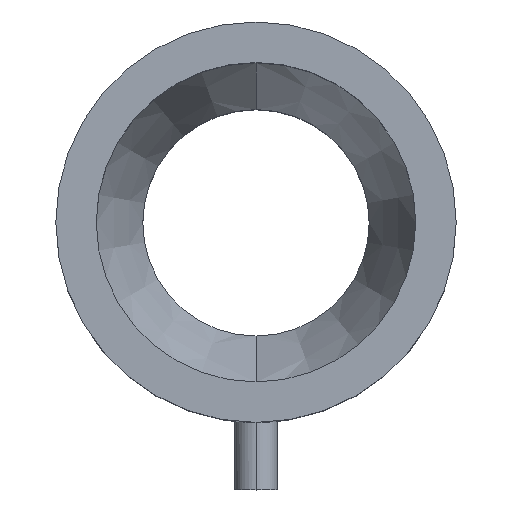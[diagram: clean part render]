
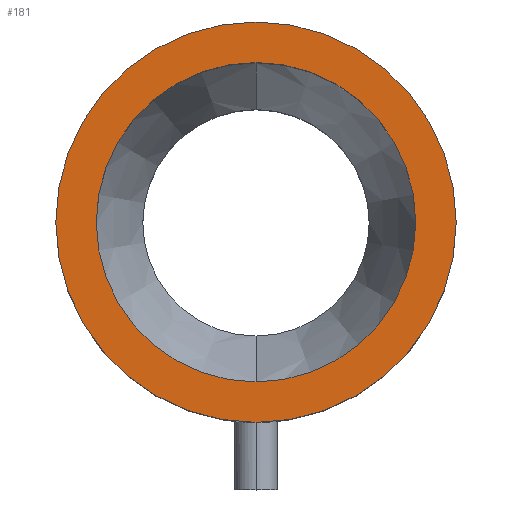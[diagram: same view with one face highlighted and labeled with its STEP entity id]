
A CAD part, top view. The second image highlights one B-rep face of the part: STEP entity #181.
In plain terms, the highlighted planar face has unit normal (0, 0, 1).
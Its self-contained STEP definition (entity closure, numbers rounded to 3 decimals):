
#9 = AXIS2_PLACEMENT_3D ( 'NONE', #724, #725, #726 ) ;
#11 = CIRCLE ( 'NONE', #9, 45. ) ;
#12 = AXIS2_PLACEMENT_3D ( 'NONE', #715, #716, #717 ) ;
#19 = AXIS2_PLACEMENT_3D ( 'NONE', #552, #559, #560 ) ;
#25 = CIRCLE ( 'NONE', #12, 56.4 ) ;
#79 = CIRCLE ( 'NONE', #86, 56.4 ) ;
#84 = AXIS2_PLACEMENT_3D ( 'NONE', #322, #323, #324 ) ;
#86 = AXIS2_PLACEMENT_3D ( 'NONE', #313, #314, #315 ) ;
#87 = CIRCLE ( 'NONE', #84, 45. ) ;
#142 = EDGE_CURVE ( 'NONE', #236, #208, #79, .T. ) ;
#145 = EDGE_CURVE ( 'NONE', #241, #206, #87, .T. ) ;
#181 = ADVANCED_FACE ( 'NONE', ( #556, #548 ), #557, .T. ) ;
#186 = EDGE_CURVE ( 'NONE', #208, #236, #25, .T. ) ;
#188 = EDGE_CURVE ( 'NONE', #206, #241, #11, .T. ) ;
#206 = VERTEX_POINT ( 'NONE', #718 ) ;
#208 = VERTEX_POINT ( 'NONE', #816 ) ;
#236 = VERTEX_POINT ( 'NONE', #842 ) ;
#241 = VERTEX_POINT ( 'NONE', #847 ) ;
#313 = CARTESIAN_POINT ( 'NONE',  ( 0., 0., 145.9 ) ) ;
#314 = DIRECTION ( 'NONE',  ( 0., 0., -1. ) ) ;
#315 = DIRECTION ( 'NONE',  ( -1., 0., 0. ) ) ;
#322 = CARTESIAN_POINT ( 'NONE',  ( 0., 0., 145.9 ) ) ;
#323 = DIRECTION ( 'NONE',  ( 0., 0., -1. ) ) ;
#324 = DIRECTION ( 'NONE',  ( -1., 0., 0. ) ) ;
#548 = FACE_OUTER_BOUND ( 'NONE', #575, .T. ) ;
#552 = CARTESIAN_POINT ( 'NONE',  ( 50.7, 0., 145.9 ) ) ;
#556 = FACE_BOUND ( 'NONE', #576, .T. ) ;
#557 = PLANE ( 'NONE',  #19 ) ;
#559 = DIRECTION ( 'NONE',  ( 0., 0., 1. ) ) ;
#560 = DIRECTION ( 'NONE',  ( 1., 0., 0. ) ) ;
#575 = EDGE_LOOP ( 'NONE', ( #658, #659 ) ) ;
#576 = EDGE_LOOP ( 'NONE', ( #650, #653 ) ) ;
#650 = ORIENTED_EDGE ( 'NONE', *, *, #188, .T. ) ;
#653 = ORIENTED_EDGE ( 'NONE', *, *, #145, .T. ) ;
#658 = ORIENTED_EDGE ( 'NONE', *, *, #142, .F. ) ;
#659 = ORIENTED_EDGE ( 'NONE', *, *, #186, .F. ) ;
#715 = CARTESIAN_POINT ( 'NONE',  ( 0., 0., 145.9 ) ) ;
#716 = DIRECTION ( 'NONE',  ( 0., 0., -1. ) ) ;
#717 = DIRECTION ( 'NONE',  ( -1., 0., 0. ) ) ;
#718 = CARTESIAN_POINT ( 'NONE',  ( -45., 0., 145.9 ) ) ;
#724 = CARTESIAN_POINT ( 'NONE',  ( 0., 0., 145.9 ) ) ;
#725 = DIRECTION ( 'NONE',  ( 0., 0., -1. ) ) ;
#726 = DIRECTION ( 'NONE',  ( -1., 0., 0. ) ) ;
#816 = CARTESIAN_POINT ( 'NONE',  ( 56.4, 0., 145.9 ) ) ;
#842 = CARTESIAN_POINT ( 'NONE',  ( -56.4, 0., 145.9 ) ) ;
#847 = CARTESIAN_POINT ( 'NONE',  ( 45., 0., 145.9 ) ) ;
